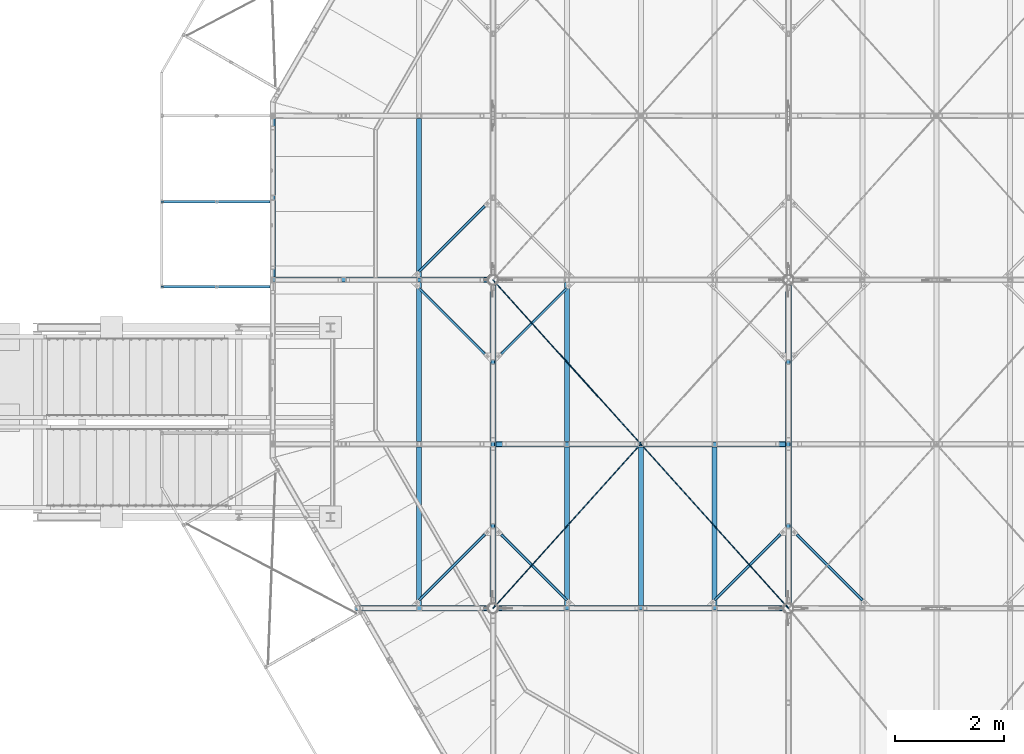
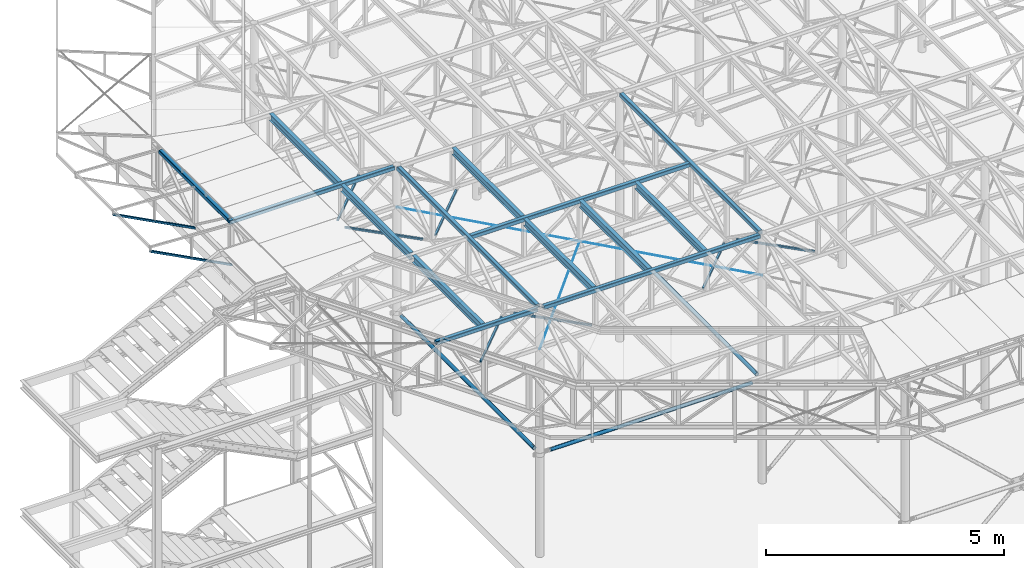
# One storey, part 9 of 132: 27 beams, 2 members, 29 elements without a shape of their own.
"""IFC2X3 building model written with IfcOpenShell, lengths in millimetres."""

from ifc_helpers import new_model, si_unit, frame, origin_with_axes, origin_2d_with_axis, place, context, subcontext, project, spatial, rectangle, hollow_rectangle, circle, hollow_circle, i_section, extrude, boolean, clip, halfspace, material, type_object, element, aggregate, save


model = new_model("IFC2X3")

# Units and contexts
model_context = context("Model", 3, precision=1e-05, world=origin_with_axes())
body_context = subcontext(model_context, "Body", "Model", "MODEL_VIEW")
ifc_project = project(units=[si_unit("LENGTHUNIT", "METRE", prefix="MILLI"), si_unit("AREAUNIT", "SQUARE_METRE"), si_unit("VOLUMEUNIT", "CUBIC_METRE"), si_unit("MASSUNIT", "GRAM", prefix="KILO"), si_unit("TIMEUNIT", "SECOND"), si_unit("PLANEANGLEUNIT", "RADIAN"), si_unit("SOLIDANGLEUNIT", "STERADIAN"), si_unit("THERMODYNAMICTEMPERATUREUNIT", "DEGREE_CELSIUS"), si_unit("LUMINOUSINTENSITYUNIT", "LUMEN")], contexts=[model_context])

# Site, building, storey
site_placement = place(None, origin_with_axes())
site = spatial("IfcSite", under=ifc_project, at=site_placement, Name="Budowa", CompositionType="ELEMENT")
building_placement = place(site_placement, origin_with_axes())
building = spatial("IfcBuilding", under=site, at=building_placement, Name="Undefined", CompositionType="ELEMENT")
storey_placement = place(building_placement, origin_with_axes())
storey = spatial("IfcBuildingStorey", under=building, at=storey_placement, Name="Undefined", CompositionType="ELEMENT", Elevation=0.0)

# Assembly, beam
assembly_1_placement = place(storey_placement, origin_with_axes())
assembly_1 = element("IfcElementAssembly", 1, at=assembly_1_placement, inside=storey, Name="Steel Assembly", AssemblyPlace="NOTDEFINED", PredefinedType="RIGID_FRAME")
ifc_material_1 = material(Name="STEEL/S235JR")
beam_type_1 = type_object("IfcBeamType", Name="CHS88.9*3", PredefinedType="NOTDEFINED")
beam_1_placement = place(assembly_1_placement, frame((4017.00000617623, 6088.90000004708, 10116.0003779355), z_axis=(-1.0, 0.0, 0.0), x_axis=(0.0, 1.0, 0.0)))
beam_1 = element("IfcBeam", 2, at=beam_1_placement, type_object=beam_type_1, material=ifc_material_1, Name="BEAM", ObjectType="CHS88.9*3", context=body_context, shape_type="CSG", body=[
    boolean("DIFFERENCE", boolean("DIFFERENCE", boolean("DIFFERENCE", boolean("DIFFERENCE", extrude(hollow_circle(Radius=44.45, WallThickness=3.0, at=origin_2d_with_axis()), frame((5703.19209466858, 0.0, 0.0), z_axis=(-1.0, 0.0, 0.0), x_axis=(0.0, -1.0, 0.0)), (0.0, 0.0, 1.0), 5584.18), extrude(rectangle(XDim=9.0, YDim=92.9, at=origin_2d_with_axis()), frame((5602.19209466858, 0.0, 3.70549059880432e-06), z_axis=(1.0, 0.0, 0.0), x_axis=(0.0, 0.0, -1.0)), (0.0, 0.0, 1.0), 103.0)), extrude(rectangle(XDim=9.0, YDim=92.9, at=origin_2d_with_axis()), frame((220.00790537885, 0.0, 3.42542261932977e-06), z_axis=(-1.0, 0.0, 0.0), x_axis=(0.0, 0.0, -1.0)), (0.0, 0.0, 1.0), 103.0)), halfspace(frame((5703.19209466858, 0.0, -11.9999962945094), z_axis=(-1.0, 0.0, 0.0), x_axis=(0.0, 1.0, 0.0)), True)), halfspace(frame((119.00790537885, 0.0, -11.9999965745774), z_axis=(1.0, 0.0, 0.0), x_axis=(0.0, -1.0, 0.0)), True)),
])
aggregate(assembly_1, [beam_1])

assembly_2_placement = place(storey_placement, origin_with_axes())
assembly_2 = element("IfcElementAssembly", 3, at=assembly_2_placement, inside=storey, Name="Steel Assembly", AssemblyPlace="NOTDEFINED", PredefinedType="RIGID_FRAME")
beam_2_placement = place(assembly_2_placement, frame((4113.90113815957, 5998.00000287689, 10116.0003779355), z_axis=(0.0, -1.0, 0.0), x_axis=(1.0, 0.0, 0.0)))
beam_2 = element("IfcBeam", 4, at=beam_2_placement, type_object=beam_type_1, material=ifc_material_1, Name="BEAM", ObjectType="CHS88.9*3", context=body_context, shape_type="CSG", body=[
    boolean("DIFFERENCE", boolean("DIFFERENCE", boolean("DIFFERENCE", boolean("DIFFERENCE", boolean("DIFFERENCE", extrude(hollow_circle(Radius=44.45, WallThickness=3.0, at=origin_2d_with_axis()), frame((5057.96216744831, 0.0, 0.0), z_axis=(-1.0, 0.0, 0.0), x_axis=(0.0, -1.0, 0.0)), (0.0, 0.0, 1.0), 4893.73), extrude(rectangle(XDim=9.0, YDim=92.9, at=origin_2d_with_axis()), frame((265.235555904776, 1.81898940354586e-12, 3.42543353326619e-06), z_axis=(-1.0, 0.0, 0.0), x_axis=(0.0, 0.0, 1.0)), (0.0, 0.0, 1.0), 103.0)), extrude(rectangle(XDim=9.0, YDim=92.9, at=origin_2d_with_axis()), frame((4956.96216744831, 1.81898940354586e-12, 3.42543353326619e-06), z_axis=(1.0, 0.0, 0.0), x_axis=(0.0, 0.0, -1.0)), (0.0, 0.0, 1.0), 103.0)), extrude(rectangle(XDim=8.0, YDim=80.1, at=origin_2d_with_axis()), frame((5006.96216666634, 0.0, 2.93223274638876e-06), z_axis=(1.0, 0.0, 0.0), x_axis=(0.0, 0.0, 1.0)), (0.0, 0.0, 1.0), 82.0)), halfspace(frame((5057.96216744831, 1.81898940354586e-12, -11.9999965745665), z_axis=(-1.0, 0.0, 0.0), x_axis=(0.0, 1.0, 0.0)), True)), halfspace(frame((164.235555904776, 1.81898940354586e-12, -11.9999965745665), z_axis=(1.0, 0.0, 0.0), x_axis=(0.0, 0.0, 1.0)), True)),
])
aggregate(assembly_2, [beam_2])

assembly_3_placement = place(storey_placement, origin_with_axes())
assembly_3 = element("IfcElementAssembly", 5, at=assembly_3_placement, inside=storey, Name="Steel Assembly", AssemblyPlace="NOTDEFINED", PredefinedType="RIGID_FRAME")
beam_3_placement = place(assembly_3_placement, frame((9417.00000620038, 6088.90000004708, 10116.0003779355), z_axis=(-1.0, 0.0, 0.0), x_axis=(0.0, 1.0, 0.0)))
beam_3 = element("IfcBeam", 6, at=beam_3_placement, type_object=beam_type_1, material=ifc_material_1, Name="BEAM", ObjectType="CHS88.9*3", context=body_context, shape_type="CSG", body=[
    boolean("DIFFERENCE", boolean("DIFFERENCE", boolean("DIFFERENCE", boolean("DIFFERENCE", extrude(hollow_circle(Radius=44.45, WallThickness=3.0, at=origin_2d_with_axis()), frame((5703.19209466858, 0.0, 0.0), z_axis=(-1.0, 0.0, 0.0), x_axis=(0.0, -1.0, 0.0)), (0.0, 0.0, 1.0), 5584.18), extrude(rectangle(XDim=9.0, YDim=92.9, at=origin_2d_with_axis()), frame((5602.19209466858, 0.0, 3.70549059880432e-06), z_axis=(1.0, 0.0, 0.0), x_axis=(0.0, 0.0, -1.0)), (0.0, 0.0, 1.0), 103.0)), extrude(rectangle(XDim=9.0, YDim=92.9, at=origin_2d_with_axis()), frame((220.00790537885, 0.0, 3.42542261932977e-06), z_axis=(-1.0, 0.0, 0.0), x_axis=(0.0, 0.0, -1.0)), (0.0, 0.0, 1.0), 103.0)), halfspace(frame((5703.19209466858, 0.0, -11.9999962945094), z_axis=(-1.0, 0.0, 0.0), x_axis=(0.0, 1.0, 0.0)), True)), halfspace(frame((119.00790537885, 0.0, -11.9999965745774), z_axis=(1.0, 0.0, 0.0), x_axis=(0.0, -1.0, 0.0)), True)),
])
aggregate(assembly_3, [beam_3])

assembly_4_placement = place(storey_placement, origin_with_axes())
assembly_4 = element("IfcElementAssembly", 7, at=assembly_4_placement, inside=storey, Name="Steel Assembly", AssemblyPlace="NOTDEFINED", PredefinedType="RIGID_FRAME")
ifc_material_2 = material(Name="STEEL/S235")
beam_type_2 = type_object("IfcBeamType", Name="IPE180", PredefinedType="NOTDEFINED")
beam_4_placement = place(assembly_4_placement, frame((2676.09999980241, 12050.0000000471, 13790.0), z_axis=(0.0, 0.0, 1.0), x_axis=(0.0, 1.0, 0.0)))
beam_4 = element("IfcBeam", 8, at=beam_4_placement, type_object=beam_type_2, material=ifc_material_2, Name="BEAM", ObjectType="IPE180", context=body_context, shape_type="SweptSolid", body=[
    extrude(i_section(OverallWidth=91.0, OverallDepth=180.0, WebThickness=5.300000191, FlangeThickness=8.0, FilletRadius=9.0, at=origin_2d_with_axis()), frame((2900.00000000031, 0.0, 0.0), z_axis=(-1.0, 0.0, 0.0), x_axis=(0.0, -1.0, 0.0)), (0.0, 0.0, 1.0), 2900.0),
])
aggregate(assembly_4, [beam_4])

assembly_5_placement = place(storey_placement, origin_with_axes())
assembly_5 = element("IfcElementAssembly", 9, at=assembly_5_placement, inside=storey, Name="Steel Assembly", AssemblyPlace="NOTDEFINED", PredefinedType="RIGID_FRAME")
beam_5_placement = place(assembly_5_placement, frame((2676.09999980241, 9050.0000000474, 13790.0), z_axis=(0.0, 0.0, 1.0), x_axis=(0.0, 1.0, 0.0)))
beam_5 = element("IfcBeam", 10, at=beam_5_placement, type_object=beam_type_2, material=ifc_material_2, Name="BEAM", ObjectType="IPE180", context=body_context, shape_type="SweptSolid", body=[
    extrude(i_section(OverallWidth=91.0, OverallDepth=180.0, WebThickness=5.300000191, FlangeThickness=8.0, FilletRadius=9.0, at=origin_2d_with_axis()), frame((2900.00000000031, 0.0, 0.0), z_axis=(-1.0, 0.0, 0.0), x_axis=(0.0, -1.0, 0.0)), (0.0, 0.0, 1.0), 2900.0),
])
aggregate(assembly_5, [beam_5])

assembly_6_placement = place(storey_placement, origin_with_axes())
assembly_6 = element("IfcElementAssembly", 11, at=assembly_6_placement, inside=storey, Name="Steel Assembly", AssemblyPlace="NOTDEFINED", PredefinedType="RIGID_FRAME")
beam_6_placement = place(assembly_6_placement, frame((2676.09999980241, 6050.00000004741, 13790.0), z_axis=(0.0, 0.0, 1.0), x_axis=(0.0, 1.0, 0.0)))
beam_6 = element("IfcBeam", 12, at=beam_6_placement, type_object=beam_type_2, material=ifc_material_2, Name="BEAM", ObjectType="IPE180", context=body_context, shape_type="SweptSolid", body=[
    extrude(i_section(OverallWidth=91.0, OverallDepth=180.0, WebThickness=5.300000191, FlangeThickness=8.0, FilletRadius=9.0, at=origin_2d_with_axis()), frame((2900.00000000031, 0.0, 0.0), z_axis=(-1.0, 0.0, 0.0), x_axis=(0.0, -1.0, 0.0)), (0.0, 0.0, 1.0), 2900.0),
])
aggregate(assembly_6, [beam_6])

assembly_7_placement = place(storey_placement, origin_with_axes())
assembly_7 = element("IfcElementAssembly", 13, at=assembly_7_placement, inside=storey, Name="Steel Assembly", AssemblyPlace="NOTDEFINED", PredefinedType="RIGID_FRAME")
beam_7_placement = place(assembly_7_placement, frame((5374.99999993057, 9050.00000004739, 13790.0), z_axis=(0.0, 0.0, 1.0), x_axis=(0.0, 1.0, 0.0)))
beam_7 = element("IfcBeam", 14, at=beam_7_placement, type_object=beam_type_2, material=ifc_material_2, Name="BEAM", ObjectType="IPE180", context=body_context, shape_type="SweptSolid", body=[
    extrude(i_section(OverallWidth=91.0, OverallDepth=180.0, WebThickness=5.300000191, FlangeThickness=8.0, FilletRadius=9.0, at=origin_2d_with_axis()), frame((2900.00000000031, 0.0, 0.0), z_axis=(-1.0, 0.0, 0.0), x_axis=(0.0, -1.0, 0.0)), (0.0, 0.0, 1.0), 2900.0),
])
aggregate(assembly_7, [beam_7])

assembly_8_placement = place(storey_placement, origin_with_axes())
assembly_8 = element("IfcElementAssembly", 15, at=assembly_8_placement, inside=storey, Name="Steel Assembly", AssemblyPlace="NOTDEFINED", PredefinedType="RIGID_FRAME")
beam_8_placement = place(assembly_8_placement, frame((5374.99999993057, 6050.00000004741, 13790.0), z_axis=(0.0, 0.0, 1.0), x_axis=(0.0, 1.0, 0.0)))
beam_8 = element("IfcBeam", 16, at=beam_8_placement, type_object=beam_type_2, material=ifc_material_2, Name="BEAM", ObjectType="IPE180", context=body_context, shape_type="SweptSolid", body=[
    extrude(i_section(OverallWidth=91.0, OverallDepth=180.0, WebThickness=5.300000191, FlangeThickness=8.0, FilletRadius=9.0, at=origin_2d_with_axis()), frame((2900.00000000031, 0.0, 0.0), z_axis=(-1.0, 0.0, 0.0), x_axis=(0.0, -1.0, 0.0)), (0.0, 0.0, 1.0), 2900.0),
])
aggregate(assembly_8, [beam_8])

assembly_9_placement = place(storey_placement, origin_with_axes())
assembly_9 = element("IfcElementAssembly", 17, at=assembly_9_placement, inside=storey, Name="Steel Assembly", AssemblyPlace="NOTDEFINED", PredefinedType="RIGID_FRAME")
beam_9_placement = place(assembly_9_placement, frame((8074.99999993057, 6050.00000004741, 13790.0), z_axis=(0.0, 0.0, 1.0), x_axis=(0.0, 1.0, 0.0)))
beam_9 = element("IfcBeam", 18, at=beam_9_placement, type_object=beam_type_2, material=ifc_material_2, Name="BEAM", ObjectType="IPE180", context=body_context, shape_type="SweptSolid", body=[
    extrude(i_section(OverallWidth=91.0, OverallDepth=180.0, WebThickness=5.300000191, FlangeThickness=8.0, FilletRadius=9.0, at=origin_2d_with_axis()), frame((2900.00000000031, 0.0, 0.0), z_axis=(-1.0, 0.0, 0.0), x_axis=(0.0, -1.0, 0.0)), (0.0, 0.0, 1.0), 2900.0),
])
aggregate(assembly_9, [beam_9])

assembly_10_placement = place(storey_placement, origin_with_axes())
assembly_10 = element("IfcElementAssembly", 19, at=assembly_10_placement, inside=storey, Name="Steel Assembly", AssemblyPlace="NOTDEFINED", PredefinedType="RIGID_FRAME")
beam_10_placement = place(assembly_10_placement, frame((6724.99999993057, 6050.00000004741, 13790.0), z_axis=(0.0, 0.0, 1.0), x_axis=(0.0, 1.0, 0.0)))
beam_10 = element("IfcBeam", 20, at=beam_10_placement, type_object=beam_type_2, material=ifc_material_2, Name="BEAM", ObjectType="IPE180", context=body_context, shape_type="SweptSolid", body=[
    extrude(i_section(OverallWidth=91.0, OverallDepth=180.0, WebThickness=5.300000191, FlangeThickness=8.0, FilletRadius=9.0, at=origin_2d_with_axis()), frame((2900.00000000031, 0.0, 0.0), z_axis=(-1.0, 0.0, 0.0), x_axis=(0.0, -1.0, 0.0)), (0.0, 0.0, 1.0), 2900.0),
])
aggregate(assembly_10, [beam_10])

# Assembly, member
assembly_11_placement = place(storey_placement, origin_with_axes())
assembly_11 = element("IfcElementAssembly", 21, at=assembly_11_placement, inside=storey, Name="Steel Assembly", AssemblyPlace="NOTDEFINED", PredefinedType="RIGID_FRAME")
member_type = type_object("IfcMemberType", Name="SHS50*4", PredefinedType="NOTDEFINED")
member_1_placement = place(assembly_11_placement, frame((-38.2796111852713, 11875.000000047, 12802.1351883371), z_axis=(0.0, 1.0, 0.0), x_axis=(-0.885407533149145, 0.0, 0.464815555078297)))
member_1 = element("IfcMember", 22, at=member_1_placement, type_object=member_type, material=ifc_material_2, Name="BEAM", ObjectType="SHS50*4", context=body_context, shape_type="Clipping", body=[
    clip(clip(extrude(hollow_rectangle(XDim=50.0, YDim=50.0, WallThickness=4.0, InnerFilletRadius=4.0, OuterFilletRadius=8.0, at=origin_2d_with_axis()), frame((2286.55526217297, 7.105427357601e-15, -1.81898940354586e-12), z_axis=(-1.0, 0.0, 0.0), x_axis=(0.0, -1.0, 0.0)), (0.0, 0.0, 1.0), 2286.56), halfspace(frame((26.2486785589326, 24.9999999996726, -25.0000000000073), z_axis=(-0.885407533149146, 0.464815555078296, 0.0), x_axis=(0.0, 0.0, 1.0)), False)), halfspace(frame((2258.9602037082, -25.0000000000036, -1.40062184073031e-10), z_axis=(-0.855808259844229, -0.517293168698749, 0.0), x_axis=(0.0, 0.0, -1.0)), True)),
])
aggregate(assembly_11, [member_1])

assembly_12_placement = place(storey_placement, origin_with_axes())
assembly_12 = element("IfcElementAssembly", 23, at=assembly_12_placement, inside=storey, Name="Steel Assembly", AssemblyPlace="NOTDEFINED", PredefinedType="RIGID_FRAME")
member_2_placement = place(assembly_12_placement, frame((-38.2796111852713, 13430.0000000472, 12802.1351883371), z_axis=(0.0, 1.0, 0.0), x_axis=(-0.885407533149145, 0.0, 0.464815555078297)))
member_2 = element("IfcMember", 24, at=member_2_placement, type_object=member_type, material=ifc_material_2, Name="BEAM", ObjectType="SHS50*4", context=body_context, shape_type="Clipping", body=[
    clip(clip(extrude(hollow_rectangle(XDim=50.0, YDim=50.0, WallThickness=4.0, InnerFilletRadius=4.0, OuterFilletRadius=8.0, at=origin_2d_with_axis()), frame((2286.55526217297, 7.105427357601e-15, -1.81898940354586e-12), z_axis=(-1.0, 0.0, 0.0), x_axis=(0.0, -1.0, 0.0)), (0.0, 0.0, 1.0), 2286.56), halfspace(frame((26.2486785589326, 24.9999999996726, -25.0000000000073), z_axis=(-0.885407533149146, 0.464815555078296, 0.0), x_axis=(0.0, 0.0, 1.0)), False)), halfspace(frame((2258.9602037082, -25.0000000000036, -1.40062184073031e-10), z_axis=(-0.855808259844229, -0.517293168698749, 0.0), x_axis=(0.0, 0.0, -1.0)), True)),
])
aggregate(assembly_12, [member_2])

# Assembly, beam
assembly_13_placement = place(storey_placement, origin_with_axes())
assembly_13 = element("IfcElementAssembly", 25, at=assembly_13_placement, inside=storey, Name="Steel Assembly", AssemblyPlace="NOTDEFINED", PredefinedType="RIGID_FRAME")
beam_type_3 = type_object("IfcBeamType", Name="D16", PredefinedType="NOTDEFINED")
beam_11_placement = place(assembly_13_placement, frame((6724.99999859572, 9000.00000005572, 12780.0), z_axis=(0.0, 0.0, 1.0), x_axis=(-0.668964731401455, 0.743294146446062, 0.0)))
beam_11 = element("IfcBeam", 26, at=beam_11_placement, type_object=beam_type_3, material=ifc_material_2, Name="BEAM", ObjectType="D16", context=body_context, shape_type="SweptSolid", body=[
    extrude(circle(Radius=8.0, at=origin_2d_with_axis()), frame((4036.08721501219, 2.30699503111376e-13, 1.81898940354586e-12), z_axis=(-1.0, 0.0, 0.0), x_axis=(0.0, -1.0, 0.0)), (0.0, 0.0, 1.0), 4036.09),
])
aggregate(assembly_13, [beam_11])

assembly_14_placement = place(storey_placement, origin_with_axes())
assembly_14 = element("IfcElementAssembly", 27, at=assembly_14_placement, inside=storey, Name="Steel Assembly", AssemblyPlace="NOTDEFINED", PredefinedType="RIGID_FRAME")
beam_12_placement = place(assembly_14_placement, frame((6724.99999859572, 9000.00000005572, 12780.0), z_axis=(0.0, 0.0, 1.0), x_axis=(-0.668964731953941, -0.743294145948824, 0.0)))
beam_12 = element("IfcBeam", 28, at=beam_12_placement, type_object=beam_type_3, material=ifc_material_2, Name="BEAM", ObjectType="D16", context=body_context, shape_type="SweptSolid", body=[
    extrude(circle(Radius=8.0, at=origin_2d_with_axis()), frame((4036.08721501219, 2.30699503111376e-13, 1.81898940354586e-12), z_axis=(-1.0, 0.0, 0.0), x_axis=(0.0, -1.0, 0.0)), (0.0, 0.0, 1.0), 4036.09),
])
aggregate(assembly_14, [beam_12])

assembly_15_placement = place(storey_placement, origin_with_axes())
assembly_15 = element("IfcElementAssembly", 29, at=assembly_15_placement, inside=storey, Name="Steel Assembly", AssemblyPlace="NOTDEFINED", PredefinedType="RIGID_FRAME")
beam_13_placement = place(assembly_15_placement, frame((9424.99999994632, 6000.00000004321, 12780.0), z_axis=(0.0, 0.0, 1.0), x_axis=(-0.668964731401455, 0.743294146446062, 0.0)))
beam_13 = element("IfcBeam", 30, at=beam_13_placement, type_object=beam_type_3, material=ifc_material_2, Name="BEAM", ObjectType="D16", context=body_context, shape_type="SweptSolid", body=[
    extrude(circle(Radius=8.0, at=origin_2d_with_axis()), frame((4036.08721501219, 2.30699503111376e-13, 1.81898940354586e-12), z_axis=(-1.0, 0.0, 0.0), x_axis=(0.0, -1.0, 0.0)), (0.0, 0.0, 1.0), 4036.09),
])
aggregate(assembly_15, [beam_13])

assembly_16_placement = place(storey_placement, origin_with_axes())
assembly_16 = element("IfcElementAssembly", 31, at=assembly_16_placement, inside=storey, Name="Steel Assembly", AssemblyPlace="NOTDEFINED", PredefinedType="RIGID_FRAME")
beam_type_4 = type_object("IfcBeamType", Name="SHS50*5", PredefinedType="NOTDEFINED")
beam_14_placement = place(assembly_16_placement, frame((9174.99999994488, 7749.80000010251, 12830.0), z_axis=(0.0, 0.0, 1.0), x_axis=(0.707106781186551, -0.707106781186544, 0.0)))
beam_14 = element("IfcBeam", 32, at=beam_14_placement, type_object=beam_type_4, material=ifc_material_2, Name="BEAM", ObjectType="SHS50*5", context=body_context, shape_type="Clipping", body=[
    clip(clip(extrude(hollow_rectangle(XDim=50.0, YDim=50.0, WallThickness=5.0, InnerFilletRadius=5.0, OuterFilletRadius=10.0, at=origin_2d_with_axis()), frame((2264.08122086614, 0.0, 0.0), z_axis=(-1.0, 0.0, 0.0), x_axis=(0.0, -1.0, 0.0)), (0.0, 0.0, 1.0), 1700.02), halfspace(frame((2264.08122086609, 9.09494701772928e-11, -9.0), z_axis=(-1.0, 0.0, 0.0), x_axis=(0.0, 1.0, 0.0)), True)), halfspace(frame((564.063061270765, -1.43882061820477e-09, -8.99999999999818), z_axis=(1.0, 0.0, 0.0), x_axis=(0.0, -1.0, 0.0)), True)),
])
aggregate(assembly_16, [beam_14])

assembly_17_placement = place(storey_placement, origin_with_axes())
assembly_17 = element("IfcElementAssembly", 33, at=assembly_17_placement, inside=storey, Name="Steel Assembly", AssemblyPlace="NOTDEFINED", PredefinedType="RIGID_FRAME")
beam_15_placement = place(assembly_17_placement, frame((9674.99999994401, 7749.80000010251, 12830.0), z_axis=(0.0, 0.0, 1.0), x_axis=(-0.70710678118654, -0.707106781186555, 0.0)))
beam_15 = element("IfcBeam", 34, at=beam_15_placement, type_object=beam_type_4, material=ifc_material_2, Name="BEAM", ObjectType="SHS50*5", context=body_context, shape_type="Clipping", body=[
    clip(clip(extrude(hollow_rectangle(XDim=50.0, YDim=50.0, WallThickness=5.0, InnerFilletRadius=5.0, OuterFilletRadius=10.0, at=origin_2d_with_axis()), frame((2264.08122086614, 0.0, 0.0), z_axis=(-1.0, 0.0, 0.0), x_axis=(0.0, -1.0, 0.0)), (0.0, 0.0, 1.0), 1700.02), halfspace(frame((2264.08122086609, 9.09494701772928e-11, -9.0), z_axis=(-1.0, 0.0, 0.0), x_axis=(0.0, 1.0, 0.0)), True)), halfspace(frame((564.063061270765, -1.43882061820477e-09, -8.99999999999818), z_axis=(1.0, 0.0, 0.0), x_axis=(0.0, -1.0, 0.0)), True)),
])
aggregate(assembly_17, [beam_15])

assembly_18_placement = place(storey_placement, origin_with_axes())
assembly_18 = element("IfcElementAssembly", 35, at=assembly_18_placement, inside=storey, Name="Steel Assembly", AssemblyPlace="NOTDEFINED", PredefinedType="RIGID_FRAME")
beam_16_placement = place(assembly_18_placement, frame((3774.99999992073, 7749.80000010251, 12830.0), z_axis=(0.0, 0.0, 1.0), x_axis=(0.707106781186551, -0.707106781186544, 0.0)))
beam_16 = element("IfcBeam", 36, at=beam_16_placement, type_object=beam_type_4, material=ifc_material_2, Name="BEAM", ObjectType="SHS50*5", context=body_context, shape_type="Clipping", body=[
    clip(clip(extrude(hollow_rectangle(XDim=50.0, YDim=50.0, WallThickness=5.0, InnerFilletRadius=5.0, OuterFilletRadius=10.0, at=origin_2d_with_axis()), frame((2264.08122086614, 0.0, 0.0), z_axis=(-1.0, 0.0, 0.0), x_axis=(0.0, -1.0, 0.0)), (0.0, 0.0, 1.0), 1700.02), halfspace(frame((2264.08122086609, 9.09494701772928e-11, -9.0), z_axis=(-1.0, 0.0, 0.0), x_axis=(0.0, 1.0, 0.0)), True)), halfspace(frame((564.063061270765, -1.43882061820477e-09, -8.99999999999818), z_axis=(1.0, 0.0, 0.0), x_axis=(0.0, -1.0, 0.0)), True)),
])
aggregate(assembly_18, [beam_16])

assembly_19_placement = place(storey_placement, origin_with_axes())
assembly_19 = element("IfcElementAssembly", 37, at=assembly_19_placement, inside=storey, Name="Steel Assembly", AssemblyPlace="NOTDEFINED", PredefinedType="RIGID_FRAME")
beam_17_placement = place(assembly_19_placement, frame((4274.99999991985, 7749.80000010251, 12830.0), z_axis=(0.0, 0.0, 1.0), x_axis=(-0.70710678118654, -0.707106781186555, 0.0)))
beam_17 = element("IfcBeam", 38, at=beam_17_placement, type_object=beam_type_4, material=ifc_material_2, Name="BEAM", ObjectType="SHS50*5", context=body_context, shape_type="Clipping", body=[
    clip(clip(extrude(hollow_rectangle(XDim=50.0, YDim=50.0, WallThickness=5.0, InnerFilletRadius=5.0, OuterFilletRadius=10.0, at=origin_2d_with_axis()), frame((2264.08122086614, 0.0, 0.0), z_axis=(-1.0, 0.0, 0.0), x_axis=(0.0, -1.0, 0.0)), (0.0, 0.0, 1.0), 1700.02), halfspace(frame((2264.08122086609, 9.09494701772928e-11, -9.0), z_axis=(-1.0, 0.0, 0.0), x_axis=(0.0, 1.0, 0.0)), True)), halfspace(frame((564.063061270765, -1.43882061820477e-09, -8.99999999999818), z_axis=(1.0, 0.0, 0.0), x_axis=(0.0, -1.0, 0.0)), True)),
])
aggregate(assembly_19, [beam_17])

assembly_20_placement = place(storey_placement, origin_with_axes())
assembly_20 = element("IfcElementAssembly", 39, at=assembly_20_placement, inside=storey, Name="Steel Assembly", AssemblyPlace="NOTDEFINED", PredefinedType="RIGID_FRAME")
beam_18_placement = place(assembly_20_placement, frame((3774.99999992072, 10250.0000000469, 12830.0), z_axis=(0.0, 0.0, 1.0), x_axis=(0.707106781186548, 0.707106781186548, 0.0)))
beam_18 = element("IfcBeam", 40, at=beam_18_placement, type_object=beam_type_4, material=ifc_material_2, Name="BEAM", ObjectType="SHS50*5", context=body_context, shape_type="Clipping", body=[
    clip(clip(extrude(hollow_rectangle(XDim=50.0, YDim=50.0, WallThickness=5.0, InnerFilletRadius=5.0, OuterFilletRadius=10.0, at=origin_2d_with_axis()), frame((2264.36406349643, -1.81898940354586e-12, 1.81898940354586e-12), z_axis=(-1.0, 0.0, 0.0), x_axis=(0.0, -1.0, 0.0)), (0.0, 0.0, 1.0), 1700.3), halfspace(frame((2264.36406350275, 1.44245859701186e-09, -8.99999999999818), z_axis=(-1.0, 0.0, 0.0), x_axis=(0.0, 1.0, 0.0)), True)), halfspace(frame((564.063061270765, -1.43882061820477e-09, -8.99999999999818), z_axis=(1.0, 0.0, 0.0), x_axis=(0.0, -1.0, 0.0)), True)),
])
aggregate(assembly_20, [beam_18])

assembly_21_placement = place(storey_placement, origin_with_axes())
assembly_21 = element("IfcElementAssembly", 41, at=assembly_21_placement, inside=storey, Name="Steel Assembly", AssemblyPlace="NOTDEFINED", PredefinedType="RIGID_FRAME")
beam_19_placement = place(assembly_21_placement, frame((4274.99999991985, 13749.8000001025, 12830.0), z_axis=(0.0, 0.0, 1.0), x_axis=(-0.70710678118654, -0.707106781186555, 0.0)))
beam_19 = element("IfcBeam", 42, at=beam_19_placement, type_object=beam_type_4, material=ifc_material_2, Name="BEAM", ObjectType="SHS50*5", context=body_context, shape_type="Clipping", body=[
    clip(clip(extrude(hollow_rectangle(XDim=50.0, YDim=50.0, WallThickness=5.0, InnerFilletRadius=5.0, OuterFilletRadius=10.0, at=origin_2d_with_axis()), frame((2264.08122086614, 0.0, 0.0), z_axis=(-1.0, 0.0, 0.0), x_axis=(0.0, -1.0, 0.0)), (0.0, 0.0, 1.0), 1700.02), halfspace(frame((2264.08122086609, 9.09494701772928e-11, -9.0), z_axis=(-1.0, 0.0, 0.0), x_axis=(0.0, 1.0, 0.0)), True)), halfspace(frame((564.063061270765, -1.43882061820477e-09, -8.99999999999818), z_axis=(1.0, 0.0, 0.0), x_axis=(0.0, -1.0, 0.0)), True)),
])
aggregate(assembly_21, [beam_19])

assembly_22_placement = place(storey_placement, origin_with_axes())
assembly_22 = element("IfcElementAssembly", 43, at=assembly_22_placement, inside=storey, Name="Steel Assembly", AssemblyPlace="NOTDEFINED", PredefinedType="RIGID_FRAME")
beam_20_placement = place(assembly_22_placement, frame((4274.99999991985, 10250.0000000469, 12830.0), z_axis=(0.0, 0.0, 1.0), x_axis=(-0.707106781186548, 0.707106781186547, 0.0)))
beam_20 = element("IfcBeam", 44, at=beam_20_placement, type_object=beam_type_4, material=ifc_material_2, Name="BEAM", ObjectType="SHS50*5", context=body_context, shape_type="Clipping", body=[
    clip(clip(extrude(hollow_rectangle(XDim=50.0, YDim=50.0, WallThickness=5.0, InnerFilletRadius=5.0, OuterFilletRadius=10.0, at=origin_2d_with_axis()), frame((2264.36406349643, -1.81898940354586e-12, 1.81898940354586e-12), z_axis=(-1.0, 0.0, 0.0), x_axis=(0.0, -1.0, 0.0)), (0.0, 0.0, 1.0), 1700.3), halfspace(frame((2264.36406350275, 1.44245859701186e-09, -8.99999999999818), z_axis=(-1.0, 0.0, 0.0), x_axis=(0.0, 1.0, 0.0)), True)), halfspace(frame((564.063061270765, -1.43882061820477e-09, -8.99999999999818), z_axis=(1.0, 0.0, 0.0), x_axis=(0.0, -1.0, 0.0)), True)),
])
aggregate(assembly_22, [beam_20])

assembly_23_placement = place(storey_placement, origin_with_axes())
assembly_23 = element("IfcElementAssembly", 45, at=assembly_23_placement, inside=storey, Name="Steel Assembly", AssemblyPlace="NOTDEFINED", PredefinedType="RIGID_FRAME")
beam_type_5 = type_object("IfcBeamType", Name="SHS100*8", PredefinedType="NOTDEFINED")
beam_21_placement = place(assembly_23_placement, frame((0.0999999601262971, 14950.000000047, 13830.0), z_axis=(1.0, 0.0, 0.0), x_axis=(0.0, -1.0, 0.0)))
beam_21 = element("IfcBeam", 46, at=beam_21_placement, type_object=beam_type_5, material=ifc_material_2, Name="BEAM", ObjectType="SHS100*8", context=body_context, shape_type="SweptSolid", body=[
    extrude(hollow_rectangle(XDim=100.0, YDim=100.0, WallThickness=8.0, InnerFilletRadius=8.0, OuterFilletRadius=16.0, at=origin_2d_with_axis()), frame((2900.00000000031, 0.0, 0.0), z_axis=(-1.0, 0.0, 0.0), x_axis=(0.0, -1.0, 0.0)), (0.0, 0.0, 1.0), 2900.0),
])
aggregate(assembly_23, [beam_21])

assembly_24_placement = place(storey_placement, origin_with_axes())
assembly_24 = element("IfcElementAssembly", 47, at=assembly_24_placement, inside=storey, Name="Steel Assembly", AssemblyPlace="NOTDEFINED", PredefinedType="RIGID_FRAME")
beam_22_placement = place(assembly_24_placement, frame((3936.09999980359, 6000.00000004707, 13830.0), z_axis=(0.0, -1.0, 0.0), x_axis=(-1.0, 0.0, 0.0)))
beam_22 = element("IfcBeam", 48, at=beam_22_placement, type_object=beam_type_5, material=ifc_material_2, Name="BEAM", ObjectType="SHS100*8", context=body_context, shape_type="CSG", body=[
    boolean("DIFFERENCE", boolean("DIFFERENCE", extrude(hollow_rectangle(XDim=100.0, YDim=100.0, WallThickness=8.0, InnerFilletRadius=8.0, OuterFilletRadius=16.0, at=origin_2d_with_axis()), frame((2434.0, 0.0, 0.0), z_axis=(-1.0, 0.0, 0.0), x_axis=(0.0, -1.0, 0.0)), (0.0, 0.0, 1.0), 2522.9), extrude(circle(Radius=89.9, at=origin_2d_with_axis()), frame((-88.9000001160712, -1950.0, -7.27595761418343e-12), z_axis=(0.0, 1.0, 0.0), x_axis=(0.0, 0.0, 1.0)), (0.0, 0.0, 1.0), 2100.0)), halfspace(frame((-88.9000001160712, 6339.0, -7.27595761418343e-12), z_axis=(-1.0, 0.0, 0.0), x_axis=(0.0, 0.0, 1.0)), False)),
])
aggregate(assembly_24, [beam_22])

assembly_25_placement = place(storey_placement, origin_with_axes())
assembly_25 = element("IfcElementAssembly", 49, at=assembly_25_placement, inside=storey, Name="Steel Assembly", AssemblyPlace="NOTDEFINED", PredefinedType="RIGID_FRAME")
beam_23_placement = place(assembly_25_placement, frame((3936.09999996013, 12000.000000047, 13830.0), z_axis=(0.0, -1.0, 0.0), x_axis=(-1.0, 0.0, 0.0)))
beam_23 = element("IfcBeam", 50, at=beam_23_placement, type_object=beam_type_5, material=ifc_material_2, Name="BEAM", ObjectType="SHS100*8", context=body_context, shape_type="CSG", body=[
    boolean("DIFFERENCE", boolean("DIFFERENCE", extrude(hollow_rectangle(XDim=100.0, YDim=100.0, WallThickness=8.0, InnerFilletRadius=8.0, OuterFilletRadius=16.0, at=origin_2d_with_axis()), frame((3986.0, 0.0, 0.0), z_axis=(-1.0, 0.0, 0.0), x_axis=(0.0, -1.0, 0.0)), (0.0, 0.0, 1.0), 4074.9), extrude(circle(Radius=89.9, at=origin_2d_with_axis()), frame((-88.9000001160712, -1950.0, -7.27595761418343e-12), z_axis=(0.0, 1.0, 0.0), x_axis=(0.0, 0.0, 1.0)), (0.0, 0.0, 1.0), 2100.0)), halfspace(frame((-88.9000001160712, 6339.0, -7.27595761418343e-12), z_axis=(-1.0, 0.0, 0.0), x_axis=(0.0, 0.0, 1.0)), False)),
])
aggregate(assembly_25, [beam_23])

assembly_26_placement = place(storey_placement, origin_with_axes())
assembly_26 = element("IfcElementAssembly", 51, at=assembly_26_placement, inside=storey, Name="Steel Assembly", AssemblyPlace="NOTDEFINED", PredefinedType="RIGID_FRAME")
beam_24_placement = place(assembly_26_placement, frame((4074.99999993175, 9000.00000004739, 13830.0), z_axis=(0.0, -1.0, 0.0), x_axis=(1.0, 0.0, 0.0)))
beam_24 = element("IfcBeam", 52, at=beam_24_placement, type_object=beam_type_5, material=ifc_material_2, Name="BEAM", ObjectType="SHS100*8", context=body_context, shape_type="SweptSolid", body=[
    extrude(hollow_rectangle(XDim=100.0, YDim=100.0, WallThickness=8.0, InnerFilletRadius=8.0, OuterFilletRadius=16.0, at=origin_2d_with_axis()), frame((5300.0, 0.0, 0.0), z_axis=(-1.0, 0.0, 0.0), x_axis=(0.0, -1.0, 0.0)), (0.0, 0.0, 1.0), 5300.0),
])
aggregate(assembly_26, [beam_24])

assembly_27_placement = place(storey_placement, origin_with_axes())
assembly_27 = element("IfcElementAssembly", 53, at=assembly_27_placement, inside=storey, Name="Steel Assembly", AssemblyPlace="NOTDEFINED", PredefinedType="RIGID_FRAME")
beam_25_placement = place(assembly_27_placement, frame((4024.99999991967, 6088.90000004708, 13830.0), z_axis=(1.0, 0.0, 0.0), x_axis=(0.0, 1.0, 0.0)))
beam_25 = element("IfcBeam", 54, at=beam_25_placement, type_object=beam_type_5, material=ifc_material_2, Name="BEAM", ObjectType="SHS100*8", context=body_context, shape_type="CSG", body=[
    boolean("DIFFERENCE", boolean("DIFFERENCE", boolean("DIFFERENCE", boolean("DIFFERENCE", extrude(hollow_rectangle(XDim=100.0, YDim=100.0, WallThickness=8.0, InnerFilletRadius=8.0, OuterFilletRadius=16.0, at=origin_2d_with_axis()), frame((5911.09999999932, 0.0, 0.0), z_axis=(-1.0, 0.0, 0.0), x_axis=(0.0, -1.0, 0.0)), (0.0, 0.0, 1.0), 6000.0), extrude(circle(Radius=89.9, at=origin_2d_with_axis()), frame((5911.09999999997, 1950.0, 0.0), z_axis=(0.0, -1.0, 0.0), x_axis=(-1.0, 0.0, 0.0)), (0.0, 0.0, 1.0), 2100.0)), extrude(circle(Radius=89.9, at=origin_2d_with_axis()), frame((-88.9000000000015, 1950.0, -5.45696821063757e-12), z_axis=(0.0, -1.0, 0.0), x_axis=(-1.0, 0.0, 0.0)), (0.0, 0.0, 1.0), 2100.0)), halfspace(frame((5911.09999999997, -6339.0, -6.3664629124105e-12), z_axis=(-1.0, 0.0, 0.0), x_axis=(0.0, 0.0, -1.0)), True)), halfspace(frame((-88.9000000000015, -6339.0, -5.45696821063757e-12), z_axis=(-1.0, 0.0, 0.0), x_axis=(0.0, 0.0, -1.0)), False)),
])
aggregate(assembly_27, [beam_25])

assembly_28_placement = place(storey_placement, origin_with_axes())
assembly_28 = element("IfcElementAssembly", 55, at=assembly_28_placement, inside=storey, Name="Steel Assembly", AssemblyPlace="NOTDEFINED", PredefinedType="RIGID_FRAME")
beam_26_placement = place(assembly_28_placement, frame((9424.99999994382, 6088.90000004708, 13830.0), z_axis=(1.0, 0.0, 0.0), x_axis=(0.0, 1.0, 0.0)))
beam_26 = element("IfcBeam", 56, at=beam_26_placement, type_object=beam_type_5, material=ifc_material_2, Name="BEAM", ObjectType="SHS100*8", context=body_context, shape_type="CSG", body=[
    boolean("DIFFERENCE", boolean("DIFFERENCE", boolean("DIFFERENCE", boolean("DIFFERENCE", extrude(hollow_rectangle(XDim=100.0, YDim=100.0, WallThickness=8.0, InnerFilletRadius=8.0, OuterFilletRadius=16.0, at=origin_2d_with_axis()), frame((5911.09999999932, 0.0, 0.0), z_axis=(-1.0, 0.0, 0.0), x_axis=(0.0, -1.0, 0.0)), (0.0, 0.0, 1.0), 6000.0), extrude(circle(Radius=89.9, at=origin_2d_with_axis()), frame((5911.09999999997, 1950.0, 0.0), z_axis=(0.0, -1.0, 0.0), x_axis=(-1.0, 0.0, 0.0)), (0.0, 0.0, 1.0), 2100.0)), extrude(circle(Radius=89.9, at=origin_2d_with_axis()), frame((-88.9000000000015, 1950.0, -5.45696821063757e-12), z_axis=(0.0, -1.0, 0.0), x_axis=(-1.0, 0.0, 0.0)), (0.0, 0.0, 1.0), 2100.0)), halfspace(frame((5911.09999999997, -6339.0, -6.3664629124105e-12), z_axis=(-1.0, 0.0, 0.0), x_axis=(0.0, 0.0, -1.0)), True)), halfspace(frame((-88.9000000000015, -6339.0, -5.45696821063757e-12), z_axis=(-1.0, 0.0, 0.0), x_axis=(0.0, 0.0, -1.0)), False)),
])
aggregate(assembly_28, [beam_26])

assembly_29_placement = place(storey_placement, origin_with_axes())
assembly_29 = element("IfcElementAssembly", 57, at=assembly_29_placement, inside=storey, Name="Steel Assembly", AssemblyPlace="NOTDEFINED", PredefinedType="RIGID_FRAME")
beam_27_placement = place(assembly_29_placement, frame((4113.99999993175, 6000.00000004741, 13830.0), z_axis=(0.0, -1.0, 0.0), x_axis=(1.0, 0.0, 0.0)))
beam_27 = element("IfcBeam", 58, at=beam_27_placement, type_object=beam_type_5, material=ifc_material_2, Name="BEAM", ObjectType="SHS100*8", context=body_context, shape_type="CSG", body=[
    boolean("DIFFERENCE", boolean("DIFFERENCE", boolean("DIFFERENCE", boolean("DIFFERENCE", extrude(hollow_rectangle(XDim=100.0, YDim=100.0, WallThickness=8.0, InnerFilletRadius=8.0, OuterFilletRadius=16.0, at=origin_2d_with_axis()), frame((5311.00000001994, 0.0, 0.0), z_axis=(-1.0, 0.0, 0.0), x_axis=(0.0, -1.0, 0.0)), (0.0, 0.0, 1.0), 5400.0), extrude(circle(Radius=89.9, at=origin_2d_with_axis()), frame((-89.0000000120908, 1950.0, 1.09139364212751e-11), z_axis=(0.0, -1.0, 0.0), x_axis=(0.0, 0.0, 1.0)), (0.0, 0.0, 1.0), 2100.0)), extrude(circle(Radius=89.9, at=origin_2d_with_axis()), frame((5311.00000001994, 1950.0, 7.27595761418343e-12), z_axis=(0.0, -1.0, 0.0), x_axis=(0.0, 0.0, 1.0)), (0.0, 0.0, 1.0), 2100.0)), halfspace(frame((5311.00000001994, -6339.0, 7.27595761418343e-12), z_axis=(-1.0, 0.0, 0.0), x_axis=(0.0, 0.0, -1.0)), True)), halfspace(frame((-89.0000000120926, -6339.0, 1.09139364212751e-11), z_axis=(-1.0, 0.0, 0.0), x_axis=(0.0, 0.0, -1.0)), False)),
])
aggregate(assembly_29, [beam_27])

save(model, "model.ifc")
